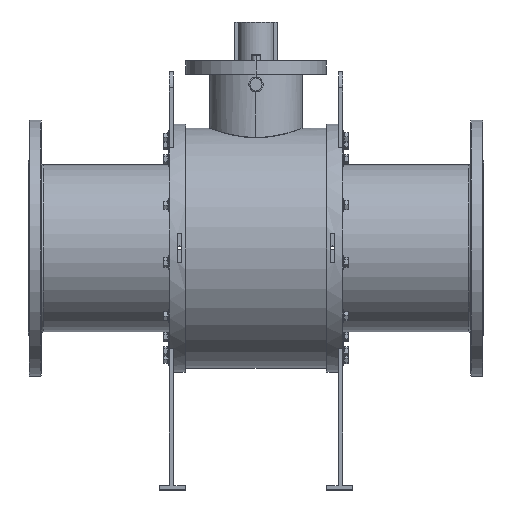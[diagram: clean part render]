
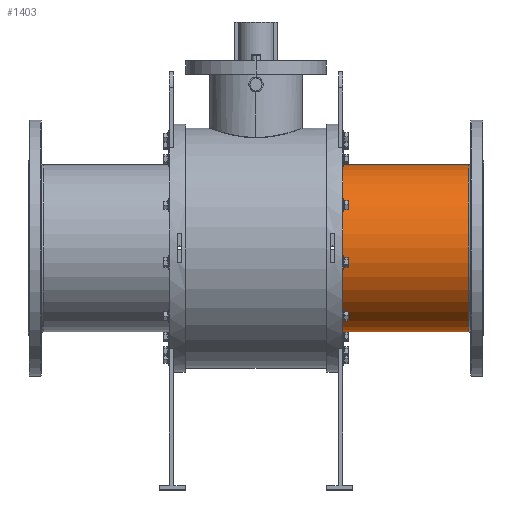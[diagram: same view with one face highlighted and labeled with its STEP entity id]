
A CAD part, top view. The second image highlights one B-rep face of the part: STEP entity #1403.
In plain terms, the highlighted cylindrical face has radius 207.5 mm (diameter 415 mm), a partial arc.
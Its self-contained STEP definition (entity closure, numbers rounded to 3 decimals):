
#92 = DIRECTION ( 'NONE',  ( 1., 0., 0. ) ) ;
#151 = LINE ( 'NONE', #4424, #13822 ) ;
#309 = AXIS2_PLACEMENT_3D ( 'NONE', #5787, #8944, #10233 ) ;
#1143 = EDGE_CURVE ( 'NONE', #3460, #4052, #6081, .T. ) ;
#1291 = DIRECTION ( 'NONE',  ( -1., 0., 0. ) ) ;
#1403 = ADVANCED_FACE ( 'NONE', ( #7620 ), #13231, .T. ) ;
#1722 = CIRCLE ( 'NONE', #7172, 207.5 ) ;
#1827 = ORIENTED_EDGE ( 'NONE', *, *, #1143, .F. ) ;
#2502 = CARTESIAN_POINT ( 'NONE',  ( -565., 0., 0. ) ) ;
#3150 = CARTESIAN_POINT ( 'NONE',  ( 215., 0., 0. ) ) ;
#3256 = CIRCLE ( 'NONE', #309, 207.5 ) ;
#3431 = DIRECTION ( 'NONE',  ( 0., -1., 0. ) ) ;
#3460 = VERTEX_POINT ( 'NONE', #9077 ) ;
#4052 = VERTEX_POINT ( 'NONE', #12889 ) ;
#4058 = EDGE_CURVE ( 'NONE', #12544, #4052, #1722, .T. ) ;
#4095 = ORIENTED_EDGE ( 'NONE', *, *, #4058, .T. ) ;
#4424 = CARTESIAN_POINT ( 'NONE',  ( -565., 207.5, 0. ) ) ;
#4761 = EDGE_CURVE ( 'NONE', #10412, #12544, #151, .T. ) ;
#5787 = CARTESIAN_POINT ( 'NONE',  ( 528., 0., 0. ) ) ;
#5805 = EDGE_CURVE ( 'NONE', #3460, #10412, #3256, .T. ) ;
#6081 = LINE ( 'NONE', #9319, #11193 ) ;
#6110 = ORIENTED_EDGE ( 'NONE', *, *, #5805, .T. ) ;
#6845 = EDGE_LOOP ( 'NONE', ( #6110, #10050, #4095, #1827 ) ) ;
#7172 = AXIS2_PLACEMENT_3D ( 'NONE', #3150, #92, #8745 ) ;
#7620 = FACE_OUTER_BOUND ( 'NONE', #6845, .T. ) ;
#7895 = CARTESIAN_POINT ( 'NONE',  ( 528., 207.5, 0. ) ) ;
#8745 = DIRECTION ( 'NONE',  ( 0., 0., -1. ) ) ;
#8944 = DIRECTION ( 'NONE',  ( -1., 0., 0. ) ) ;
#9077 = CARTESIAN_POINT ( 'NONE',  ( 528., -207.5, 0. ) ) ;
#9319 = CARTESIAN_POINT ( 'NONE',  ( -565., -207.5, 0. ) ) ;
#10050 = ORIENTED_EDGE ( 'NONE', *, *, #4761, .T. ) ;
#10233 = DIRECTION ( 'NONE',  ( 0., 1., 0. ) ) ;
#10402 = DIRECTION ( 'NONE',  ( -1., 0., 0. ) ) ;
#10412 = VERTEX_POINT ( 'NONE', #7895 ) ;
#10738 = AXIS2_PLACEMENT_3D ( 'NONE', #2502, #13164, #3431 ) ;
#11193 = VECTOR ( 'NONE', #10402, 1000. ) ;
#12274 = CARTESIAN_POINT ( 'NONE',  ( 215., 207.5, 0. ) ) ;
#12544 = VERTEX_POINT ( 'NONE', #12274 ) ;
#12889 = CARTESIAN_POINT ( 'NONE',  ( 215., -207.5, 0. ) ) ;
#13164 = DIRECTION ( 'NONE',  ( -1., 0., 0. ) ) ;
#13231 = CYLINDRICAL_SURFACE ( 'NONE', #10738, 207.5 ) ;
#13822 = VECTOR ( 'NONE', #1291, 1000. ) ;
